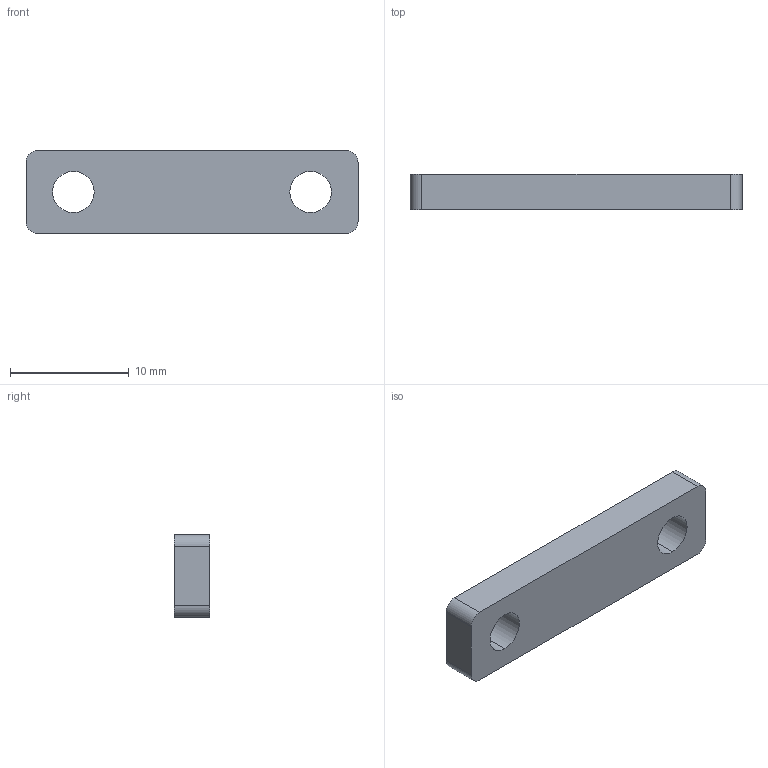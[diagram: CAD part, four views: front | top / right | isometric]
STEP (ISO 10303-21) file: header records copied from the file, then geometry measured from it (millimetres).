
FILE_DESCRIPTION (( 'STEP AP203' ), '1' );
FILE_NAME ('C諳揤輸.step', '2025-08-15T02:24:21', ( '' ), ( '' ), 'SwSTEP 2.0', 'SolidWorks 2023', '' );
FILE_SCHEMA (( 'CONFIG_CONTROL_DESIGN' ));
Length unit declared in the file: millimetre
Products named in the file (1): C口压块
Bounding box: 28 x 3 x 7 mm (x, y, z)
Volume: 527.7 mm3; surface area: 622.6 mm2
Topology: 1 solids, 1 shells, 14 faces, 36 edges, 24 vertices
Faces by surface type: cylinder 8, plane 6
Entity records: 521 total; most frequent: DIRECTION 82, CARTESIAN_POINT 75, ORIENTED_EDGE 72, EDGE_CURVE 36, AXIS2_PLACEMENT_3D 31, VERTEX_POINT 24, VECTOR 20, LINE 20
